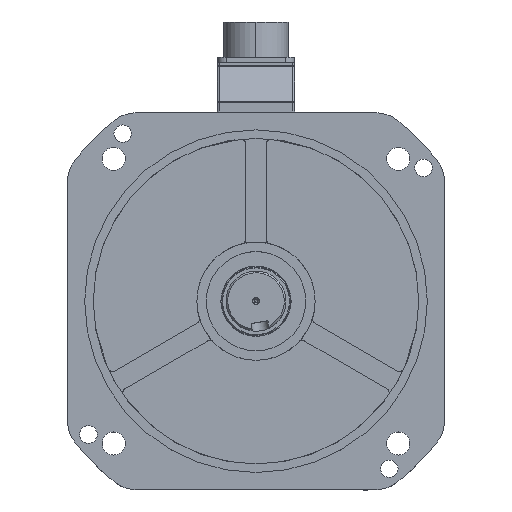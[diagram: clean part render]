
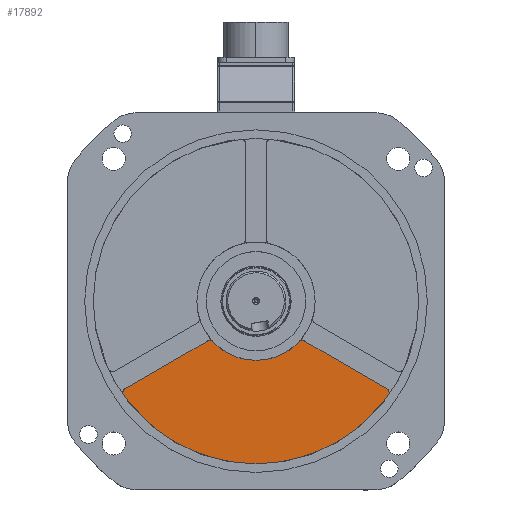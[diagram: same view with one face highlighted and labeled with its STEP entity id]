
A CAD part, top view. The second image highlights one B-rep face of the part: STEP entity #17892.
In plain terms, the highlighted planar face has unit normal (0, 0, 1).
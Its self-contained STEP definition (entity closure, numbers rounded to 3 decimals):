
#976 = EDGE_CURVE ( 'NONE', #32076, #20592, #35132, .T. ) ;
#1619 = ORIENTED_EDGE ( 'NONE', *, *, #54093, .T. ) ;
#1715 = VERTEX_POINT ( 'NONE', #21786 ) ;
#2863 = VERTEX_POINT ( 'NONE', #55384 ) ;
#5180 = CARTESIAN_POINT ( 'NONE',  ( 77.231, 55.321, 16. ) ) ;
#6451 = AXIS2_PLACEMENT_3D ( 'NONE', #67305, #50933, #46041 ) ;
#6696 = DIRECTION ( 'NONE',  ( 1., 0., 0. ) ) ;
#7523 = EDGE_LOOP ( 'NONE', ( #54901, #61730, #55527, #48733, #47065, #1619, #34022, #31453, #58259 ) ) ;
#8510 = CIRCLE ( 'NONE', #50830, 3. ) ;
#9024 = CARTESIAN_POINT ( 'NONE',  ( -27.027, 25.996, 16. ) ) ;
#9133 = CIRCLE ( 'NONE', #53680, 3. ) ;
#12994 = CARTESIAN_POINT ( 'NONE',  ( 28.527, 23.398, 16. ) ) ;
#13302 = DIRECTION ( 'NONE',  ( 0., 0., -1. ) ) ;
#13539 = CARTESIAN_POINT ( 'NONE',  ( -74.792, 53.574, 16. ) ) ;
#13629 = EDGE_CURVE ( 'NONE', #30672, #2863, #23210, .T. ) ;
#15007 = AXIS2_PLACEMENT_3D ( 'NONE', #15134, #41641, #25621 ) ;
#15060 = EDGE_CURVE ( 'NONE', #56485, #2863, #23930, .T. ) ;
#15134 = CARTESIAN_POINT ( 'NONE',  ( -74.792, 53.574, 16. ) ) ;
#17892 = ADVANCED_FACE ( 'NONE', ( #55451 ), #39410, .T. ) ;
#18046 = DIRECTION ( 'NONE',  ( 0.866, 0.5, 0. ) ) ;
#18784 = AXIS2_PLACEMENT_3D ( 'NONE', #27630, #48206, #6696 ) ;
#18787 = DIRECTION ( 'NONE',  ( 0., 0., 1. ) ) ;
#19015 = CARTESIAN_POINT ( 'NONE',  ( 74.792, 53.574, 16. ) ) ;
#19576 = CARTESIAN_POINT ( 'NONE',  ( 0., 0., 16. ) ) ;
#20592 = VERTEX_POINT ( 'NONE', #56129 ) ;
#21786 = CARTESIAN_POINT ( 'NONE',  ( -77.231, 55.321, 16. ) ) ;
#21952 = EDGE_CURVE ( 'NONE', #1715, #56485, #8510, .T. ) ;
#23210 = LINE ( 'NONE', #34015, #67626 ) ;
#23930 = CIRCLE ( 'NONE', #15007, 3. ) ;
#24332 = DIRECTION ( 'NONE',  ( 1., 0., 0. ) ) ;
#24714 = DIRECTION ( 'NONE',  ( 1., 0., 0. ) ) ;
#25577 = EDGE_CURVE ( 'NONE', #1715, #27344, #46453, .T. ) ;
#25621 = DIRECTION ( 'NONE',  ( 1., 0., 0. ) ) ;
#27344 = VERTEX_POINT ( 'NONE', #5180 ) ;
#27630 = CARTESIAN_POINT ( 'NONE',  ( 27.027, 25.996, 16. ) ) ;
#28782 = AXIS2_PLACEMENT_3D ( 'NONE', #19576, #13302, #29017 ) ;
#29017 = DIRECTION ( 'NONE',  ( 1., 0., 0. ) ) ;
#29607 = CARTESIAN_POINT ( 'NONE',  ( -77.792, 53.574, 16. ) ) ;
#30672 = VERTEX_POINT ( 'NONE', #48986 ) ;
#31453 = ORIENTED_EDGE ( 'NONE', *, *, #64879, .T. ) ;
#32076 = VERTEX_POINT ( 'NONE', #12994 ) ;
#33105 = CIRCLE ( 'NONE', #41999, 34.5 ) ;
#33860 = VERTEX_POINT ( 'NONE', #48344 ) ;
#34015 = CARTESIAN_POINT ( 'NONE',  ( 3., 5.196, 16. ) ) ;
#34022 = ORIENTED_EDGE ( 'NONE', *, *, #47740, .F. ) ;
#35103 = EDGE_CURVE ( 'NONE', #20592, #27344, #42232, .T. ) ;
#35132 = LINE ( 'NONE', #45243, #43380 ) ;
#36701 = VERTEX_POINT ( 'NONE', #66520 ) ;
#39410 = PLANE ( 'NONE',  #6451 ) ;
#39576 = DIRECTION ( 'NONE',  ( 1., 0., 0. ) ) ;
#41641 = DIRECTION ( 'NONE',  ( 0., 0., 1. ) ) ;
#41999 = AXIS2_PLACEMENT_3D ( 'NONE', #50821, #67545, #24332 ) ;
#42232 = CIRCLE ( 'NONE', #50044, 3. ) ;
#43380 = VECTOR ( 'NONE', #18046, 1000. ) ;
#44483 = DIRECTION ( 'NONE',  ( 0., 0., 1. ) ) ;
#45243 = CARTESIAN_POINT ( 'NONE',  ( -3., 5.196, 16. ) ) ;
#46041 = DIRECTION ( 'NONE',  ( 1., 0., 0. ) ) ;
#46453 = CIRCLE ( 'NONE', #28782, 95. ) ;
#47065 = ORIENTED_EDGE ( 'NONE', *, *, #13629, .F. ) ;
#47740 = EDGE_CURVE ( 'NONE', #33860, #36701, #33105, .T. ) ;
#48206 = DIRECTION ( 'NONE',  ( 0., 0., 1. ) ) ;
#48344 = CARTESIAN_POINT ( 'NONE',  ( 24.865, 23.917, 16. ) ) ;
#48733 = ORIENTED_EDGE ( 'NONE', *, *, #15060, .T. ) ;
#48986 = CARTESIAN_POINT ( 'NONE',  ( -28.527, 23.398, 16. ) ) ;
#50044 = AXIS2_PLACEMENT_3D ( 'NONE', #19015, #44483, #39576 ) ;
#50821 = CARTESIAN_POINT ( 'NONE',  ( 0., 0., 16. ) ) ;
#50830 = AXIS2_PLACEMENT_3D ( 'NONE', #13539, #18787, #24714 ) ;
#50933 = DIRECTION ( 'NONE',  ( 0., 0., 1. ) ) ;
#51576 = DIRECTION ( 'NONE',  ( 0., 0., 1. ) ) ;
#53680 = AXIS2_PLACEMENT_3D ( 'NONE', #9024, #51576, #62346 ) ;
#54093 = EDGE_CURVE ( 'NONE', #30672, #36701, #9133, .T. ) ;
#54411 = CIRCLE ( 'NONE', #18784, 3. ) ;
#54901 = ORIENTED_EDGE ( 'NONE', *, *, #35103, .T. ) ;
#55384 = CARTESIAN_POINT ( 'NONE',  ( -76.292, 50.976, 16. ) ) ;
#55451 = FACE_OUTER_BOUND ( 'NONE', #7523, .T. ) ;
#55527 = ORIENTED_EDGE ( 'NONE', *, *, #21952, .T. ) ;
#56129 = CARTESIAN_POINT ( 'NONE',  ( 76.292, 50.976, 16. ) ) ;
#56485 = VERTEX_POINT ( 'NONE', #29607 ) ;
#58259 = ORIENTED_EDGE ( 'NONE', *, *, #976, .T. ) ;
#61730 = ORIENTED_EDGE ( 'NONE', *, *, #25577, .F. ) ;
#62346 = DIRECTION ( 'NONE',  ( 1., 0., 0. ) ) ;
#64879 = EDGE_CURVE ( 'NONE', #33860, #32076, #54411, .T. ) ;
#65737 = DIRECTION ( 'NONE',  ( -0.866, 0.5, 0. ) ) ;
#66520 = CARTESIAN_POINT ( 'NONE',  ( -24.865, 23.917, 16. ) ) ;
#67305 = CARTESIAN_POINT ( 'NONE',  ( 0., 0., 16. ) ) ;
#67545 = DIRECTION ( 'NONE',  ( 0., 0., 1. ) ) ;
#67626 = VECTOR ( 'NONE', #65737, 1000. ) ;
